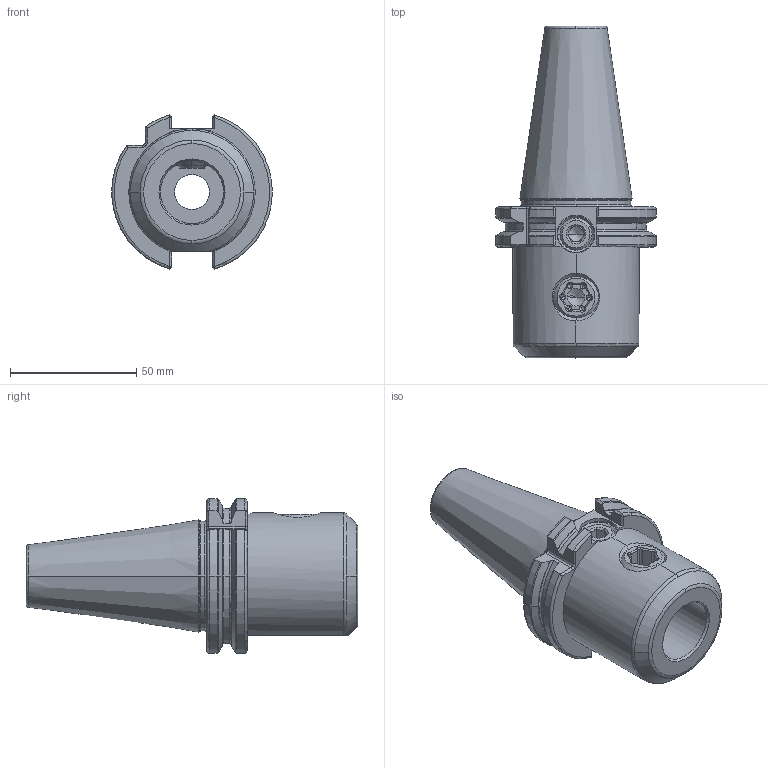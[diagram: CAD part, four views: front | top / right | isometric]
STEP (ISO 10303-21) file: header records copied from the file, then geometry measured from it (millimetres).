
FILE_DESCRIPTION (( 'STEP AP214' ), '1' );
FILE_NAME ('04-0524.STEP', '2022-02-02T19:16:04', ( '' ), ( '' ), 'SwSTEP 2.0', 'SolidWorks 2021', '' );
FILE_SCHEMA (( 'AUTOMOTIVE_DESIGN' ));
Length unit declared in the file: inch
Products named in the file (1): 04-0524
Bounding box: 63.55 x 131.4 x 61.05 mm (x, y, z)
Volume: 151935.9 mm3; surface area: 32059.2 mm2
Topology: 1 solids, 1 shells, 272 faces, 728 edges, 441 vertices
Faces by surface type: cone 80, plane 74, cylinder 70, torus 30, bspline 18
Entity records: 13610 total; most frequent: CARTESIAN_POINT 3607, ORIENTED_EDGE 1400, DIRECTION 1309, EDGE_CURVE 700, AXIS2_PLACEMENT_3D 515, VERTEX_POINT 441, EDGE_LOOP 285, VECTOR 279
